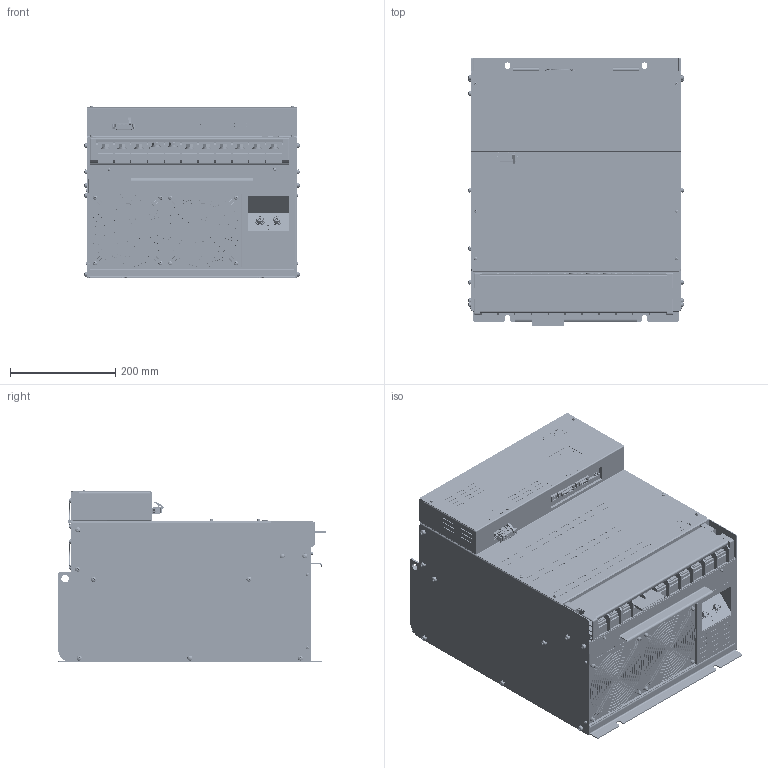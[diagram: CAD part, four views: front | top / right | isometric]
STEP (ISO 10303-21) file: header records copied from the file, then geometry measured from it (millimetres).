
FILE_DESCRIPTION (( 'STEP AP203' ), '1' );
FILE_NAME ('NCR-HA3_553#SE-84791.STEP', '2021-07-08T06:37:04', ( '' ), ( '' ), 'SwSTEP 2.0', 'SolidWorks 2018', '' );
FILE_SCHEMA (( 'CONFIG_CONTROL_DESIGN' ));
Products named in the file (1): NCR-HA3_553#SE-84791
Bounding box: 409.06 x 508 x 327.95 mm (x, y, z)
Volume: 50218169 mm3; surface area: 1551639.8 mm2
Topology: 4 solids, 43 shells, 14272 faces, 38730 edges, 24810 vertices
Faces by surface type: plane 8716, cylinder 2364, bspline 1710, cone 1186, torus 206, sphere 90
Entity records: 506526 total; most frequent: CARTESIAN_POINT 153175, ORIENTED_EDGE 77256, DIRECTION 68338, EDGE_CURVE 38628, VERTEX_POINT 24810, LINE 24490, VECTOR 24490, AXIS2_PLACEMENT_3D 21924
